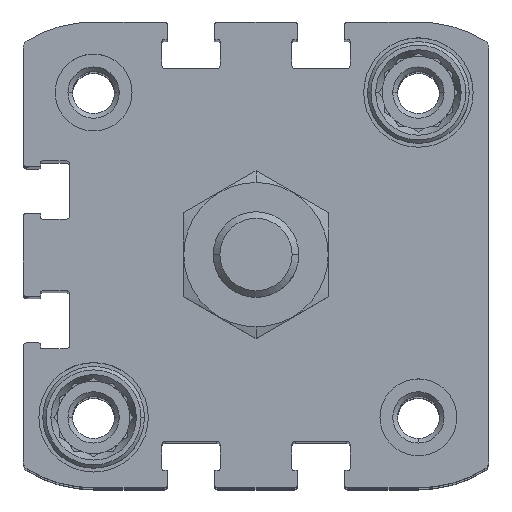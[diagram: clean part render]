
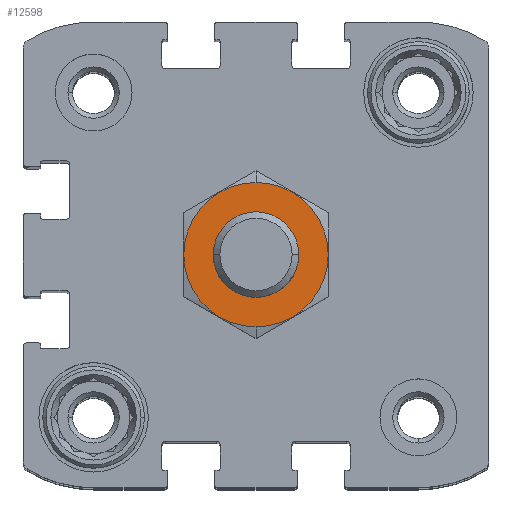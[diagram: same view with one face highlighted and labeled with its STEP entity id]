
A CAD part, top view. The second image highlights one B-rep face of the part: STEP entity #12598.
In plain terms, the highlighted planar face has unit normal (0, 0, 1).
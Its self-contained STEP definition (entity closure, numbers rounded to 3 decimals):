
#675 = DIRECTION ( 'NONE',  ( 0., 0., -1. ) ) ;
#1169 = CIRCLE ( 'NONE', #9581, 5. ) ;
#2178 = VERTEX_POINT ( 'NONE', #4792 ) ;
#2206 = AXIS2_PLACEMENT_3D ( 'NONE', #11189, #4421, #13472 ) ;
#2951 = ORIENTED_EDGE ( 'NONE', *, *, #8771, .T. ) ;
#2968 = ORIENTED_EDGE ( 'NONE', *, *, #11870, .F. ) ;
#3842 = VERTEX_POINT ( 'NONE', #10218 ) ;
#3987 = CARTESIAN_POINT ( 'NONE',  ( 0., 0., 15.8 ) ) ;
#4421 = DIRECTION ( 'NONE',  ( 0., 0., -1. ) ) ;
#4734 = CIRCLE ( 'NONE', #12579, 8.45 ) ;
#4792 = CARTESIAN_POINT ( 'NONE',  ( 0., 8.45, 15.8 ) ) ;
#4900 = CARTESIAN_POINT ( 'NONE',  ( 0., 0., 15.8 ) ) ;
#4906 = DIRECTION ( 'NONE',  ( 0., 1., 0. ) ) ;
#5348 = AXIS2_PLACEMENT_3D ( 'NONE', #16576, #675, #7513 ) ;
#5561 = FACE_OUTER_BOUND ( 'NONE', #15978, .T. ) ;
#5815 = PLANE ( 'NONE',  #2206 ) ;
#6155 = VERTEX_POINT ( 'NONE', #8062 ) ;
#6306 = CARTESIAN_POINT ( 'NONE',  ( 0., 0., 15.8 ) ) ;
#6684 = VERTEX_POINT ( 'NONE', #16563 ) ;
#7025 = EDGE_CURVE ( 'NONE', #6684, #2178, #13040, .T. ) ;
#7513 = DIRECTION ( 'NONE',  ( 0., 1., 0. ) ) ;
#8062 = CARTESIAN_POINT ( 'NONE',  ( 0., 5., 15.8 ) ) ;
#8771 = EDGE_CURVE ( 'NONE', #6155, #3842, #11803, .T. ) ;
#9098 = AXIS2_PLACEMENT_3D ( 'NONE', #3987, #14530, #9338 ) ;
#9338 = DIRECTION ( 'NONE',  ( 0., 1., 0. ) ) ;
#9581 = AXIS2_PLACEMENT_3D ( 'NONE', #6306, #11412, #4906 ) ;
#10218 = CARTESIAN_POINT ( 'NONE',  ( 0., -5., 15.8 ) ) ;
#11189 = CARTESIAN_POINT ( 'NONE',  ( 0., 0., 15.8 ) ) ;
#11412 = DIRECTION ( 'NONE',  ( 0., 0., -1. ) ) ;
#11803 = CIRCLE ( 'NONE', #5348, 5. ) ;
#11870 = EDGE_CURVE ( 'NONE', #2178, #6684, #4734, .T. ) ;
#12579 = AXIS2_PLACEMENT_3D ( 'NONE', #4900, #14034, #15537 ) ;
#12598 = ADVANCED_FACE ( 'NONE', ( #5561, #14875 ), #5815, .F. ) ;
#13040 = CIRCLE ( 'NONE', #9098, 8.45 ) ;
#13472 = DIRECTION ( 'NONE',  ( 0., 1., 0. ) ) ;
#14034 = DIRECTION ( 'NONE',  ( 0., 0., -1. ) ) ;
#14530 = DIRECTION ( 'NONE',  ( 0., 0., -1. ) ) ;
#14875 = FACE_BOUND ( 'NONE', #17375, .T. ) ;
#15189 = ORIENTED_EDGE ( 'NONE', *, *, #16083, .T. ) ;
#15537 = DIRECTION ( 'NONE',  ( 0., 1., 0. ) ) ;
#15886 = ORIENTED_EDGE ( 'NONE', *, *, #7025, .F. ) ;
#15978 = EDGE_LOOP ( 'NONE', ( #2968, #15886 ) ) ;
#16083 = EDGE_CURVE ( 'NONE', #3842, #6155, #1169, .T. ) ;
#16563 = CARTESIAN_POINT ( 'NONE',  ( 0., -8.45, 15.8 ) ) ;
#16576 = CARTESIAN_POINT ( 'NONE',  ( 0., 0., 15.8 ) ) ;
#17375 = EDGE_LOOP ( 'NONE', ( #15189, #2951 ) ) ;
